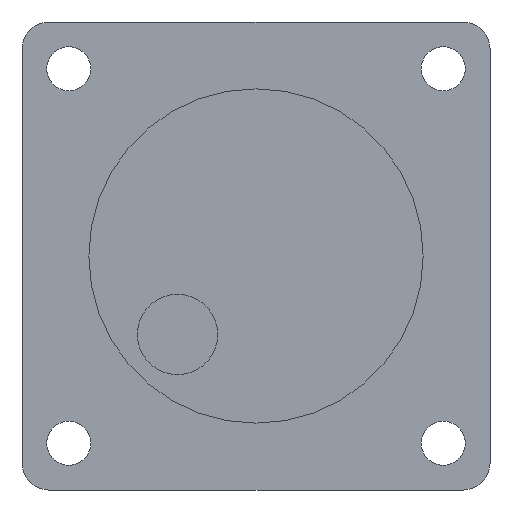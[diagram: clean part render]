
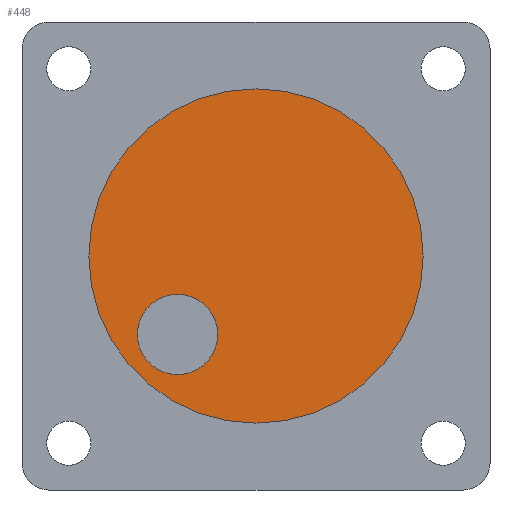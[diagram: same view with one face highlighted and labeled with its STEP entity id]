
A CAD part, front view. The second image highlights one B-rep face of the part: STEP entity #448.
In plain terms, the highlighted planar face has unit normal (0, -1, 0).
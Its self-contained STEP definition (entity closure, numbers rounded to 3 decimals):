
#37 = CARTESIAN_POINT ( 'NONE',  ( 0., 0., 0. ) ) ;
#41 = CIRCLE ( 'NONE', #1665, 3. ) ;
#48 = PLANE ( 'NONE',  #1578 ) ;
#70 = ORIENTED_EDGE ( 'NONE', *, *, #221, .F. ) ;
#133 = CARTESIAN_POINT ( 'NONE',  ( -5.869, 0., -2.869 ) ) ;
#221 = EDGE_CURVE ( 'NONE', #1334, #772, #41, .T. ) ;
#242 = DIRECTION ( 'NONE',  ( 0., -1., 0. ) ) ;
#314 = VERTEX_POINT ( 'NONE', #781 ) ;
#437 = CARTESIAN_POINT ( 'NONE',  ( 0., 0., 0. ) ) ;
#448 = ADVANCED_FACE ( 'NONE', ( #1750, #1163 ), #48, .F. ) ;
#495 = DIRECTION ( 'NONE',  ( 0., -1., 0. ) ) ;
#522 = DIRECTION ( 'NONE',  ( 0., 0., 1. ) ) ;
#529 = DIRECTION ( 'NONE',  ( 0., 0., 1. ) ) ;
#551 = CARTESIAN_POINT ( 'NONE',  ( -5.869, 0., -8.869 ) ) ;
#592 = EDGE_LOOP ( 'NONE', ( #70, #1609 ) ) ;
#605 = DIRECTION ( 'NONE',  ( 0., 0., 1. ) ) ;
#676 = AXIS2_PLACEMENT_3D ( 'NONE', #1450, #1166, #605 ) ;
#713 = EDGE_CURVE ( 'NONE', #772, #1334, #773, .T. ) ;
#736 = DIRECTION ( 'NONE',  ( 0., 0., 1. ) ) ;
#738 = DIRECTION ( 'NONE',  ( 0., 1., 0. ) ) ;
#772 = VERTEX_POINT ( 'NONE', #551 ) ;
#773 = CIRCLE ( 'NONE', #1793, 3. ) ;
#781 = CARTESIAN_POINT ( 'NONE',  ( 0., 0., -12.5 ) ) ;
#795 = CIRCLE ( 'NONE', #1454, 12.5 ) ;
#889 = EDGE_LOOP ( 'NONE', ( #1455, #1728 ) ) ;
#1027 = DIRECTION ( 'NONE',  ( 0., 1., 0. ) ) ;
#1030 = EDGE_CURVE ( 'NONE', #314, #1596, #1646, .T. ) ;
#1163 = FACE_OUTER_BOUND ( 'NONE', #889, .T. ) ;
#1166 = DIRECTION ( 'NONE',  ( 0., 1., 0. ) ) ;
#1334 = VERTEX_POINT ( 'NONE', #133 ) ;
#1429 = DIRECTION ( 'NONE',  ( 0., 0., 1. ) ) ;
#1450 = CARTESIAN_POINT ( 'NONE',  ( 0., 0., 0. ) ) ;
#1454 = AXIS2_PLACEMENT_3D ( 'NONE', #37, #1027, #736 ) ;
#1455 = ORIENTED_EDGE ( 'NONE', *, *, #1030, .F. ) ;
#1513 = CARTESIAN_POINT ( 'NONE',  ( -5.869, 0., -5.869 ) ) ;
#1521 = EDGE_CURVE ( 'NONE', #1596, #314, #795, .T. ) ;
#1578 = AXIS2_PLACEMENT_3D ( 'NONE', #437, #738, #1429 ) ;
#1596 = VERTEX_POINT ( 'NONE', #1775 ) ;
#1609 = ORIENTED_EDGE ( 'NONE', *, *, #713, .F. ) ;
#1645 = CARTESIAN_POINT ( 'NONE',  ( -5.869, 0., -5.869 ) ) ;
#1646 = CIRCLE ( 'NONE', #676, 12.5 ) ;
#1665 = AXIS2_PLACEMENT_3D ( 'NONE', #1645, #495, #522 ) ;
#1728 = ORIENTED_EDGE ( 'NONE', *, *, #1521, .F. ) ;
#1750 = FACE_BOUND ( 'NONE', #592, .T. ) ;
#1775 = CARTESIAN_POINT ( 'NONE',  ( 0., 0., 12.5 ) ) ;
#1793 = AXIS2_PLACEMENT_3D ( 'NONE', #1513, #242, #529 ) ;
